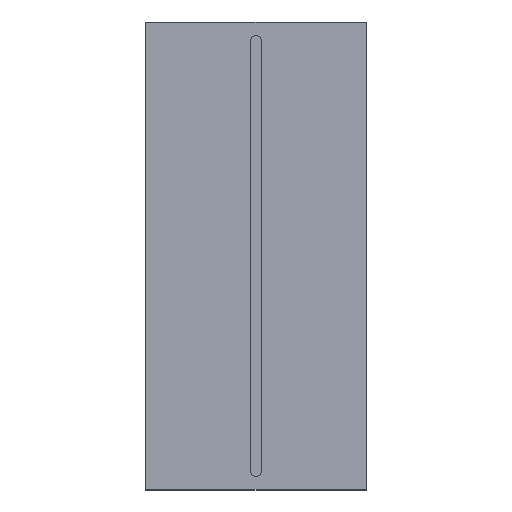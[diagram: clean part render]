
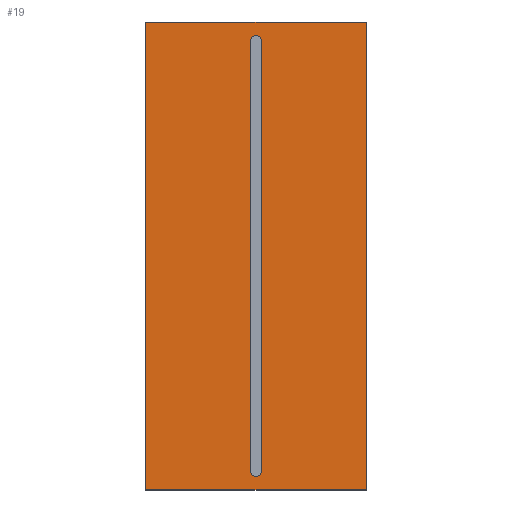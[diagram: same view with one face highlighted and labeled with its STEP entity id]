
A CAD part, top view. The second image highlights one B-rep face of the part: STEP entity #19.
In plain terms, the highlighted planar face has unit normal (0, 0, 1).
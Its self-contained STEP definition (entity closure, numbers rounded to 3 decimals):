
#3 = EDGE_CURVE ( 'NONE', #100, #50, #233, .T. ) ;
#4 = AXIS2_PLACEMENT_3D ( 'NONE', #74, #80, #116 ) ;
#19 = ADVANCED_FACE ( 'NONE', ( #348, #206 ), #52, .F. ) ;
#23 = AXIS2_PLACEMENT_3D ( 'NONE', #110, #105, #104 ) ;
#26 = AXIS2_PLACEMENT_3D ( 'NONE', #195, #185, #182 ) ;
#28 = AXIS2_PLACEMENT_3D ( 'NONE', #83, #56, #54 ) ;
#41 = DIRECTION ( 'NONE',  ( 0., 1., 0. ) ) ;
#44 = CARTESIAN_POINT ( 'NONE',  ( 5., 17., 4. ) ) ;
#45 = DIRECTION ( 'NONE',  ( 1., 0., 0. ) ) ;
#50 = VERTEX_POINT ( 'NONE', #174 ) ;
#52 = PLANE ( 'NONE',  #4 ) ;
#54 = DIRECTION ( 'NONE',  ( 0., -1., 0. ) ) ;
#56 = DIRECTION ( 'NONE',  ( 0., 0., 1. ) ) ;
#58 = CARTESIAN_POINT ( 'NONE',  ( -98.5, 0., 4. ) ) ;
#65 = VERTEX_POINT ( 'NONE', #160 ) ;
#68 = VERTEX_POINT ( 'NONE', #179 ) ;
#69 = CARTESIAN_POINT ( 'NONE',  ( -98.5, 0., 4. ) ) ;
#71 = VERTEX_POINT ( 'NONE', #156 ) ;
#74 = CARTESIAN_POINT ( 'NONE',  ( 98.5, 419., 4. ) ) ;
#75 = VERTEX_POINT ( 'NONE', #165 ) ;
#80 = DIRECTION ( 'NONE',  ( 0., 0., -1. ) ) ;
#83 = CARTESIAN_POINT ( 'NONE',  ( 0., 402., 4. ) ) ;
#92 = VERTEX_POINT ( 'NONE', #148 ) ;
#93 = VERTEX_POINT ( 'NONE', #143 ) ;
#94 = VERTEX_POINT ( 'NONE', #141 ) ;
#97 = DIRECTION ( 'NONE',  ( 0., 1., 0. ) ) ;
#99 = CARTESIAN_POINT ( 'NONE',  ( 98.5, 0., 4. ) ) ;
#100 = VERTEX_POINT ( 'NONE', #137 ) ;
#101 = DIRECTION ( 'NONE',  ( -1., 0., 0. ) ) ;
#103 = CARTESIAN_POINT ( 'NONE',  ( -98.5, 419., 4. ) ) ;
#104 = DIRECTION ( 'NONE',  ( 0., -1., 0. ) ) ;
#105 = DIRECTION ( 'NONE',  ( 0., 0., 1. ) ) ;
#109 = DIRECTION ( 'NONE',  ( 0., -1., 0. ) ) ;
#110 = CARTESIAN_POINT ( 'NONE',  ( 0., 17., 4. ) ) ;
#116 = DIRECTION ( 'NONE',  ( 0., 1., 0. ) ) ;
#125 = CARTESIAN_POINT ( 'NONE',  ( -5., 17., 4. ) ) ;
#137 = CARTESIAN_POINT ( 'NONE',  ( -98.5, 419., 4. ) ) ;
#141 = CARTESIAN_POINT ( 'NONE',  ( -5., 17., 4. ) ) ;
#143 = CARTESIAN_POINT ( 'NONE',  ( 5., 402., 4. ) ) ;
#148 = CARTESIAN_POINT ( 'NONE',  ( 98.5, 419., 4. ) ) ;
#156 = CARTESIAN_POINT ( 'NONE',  ( -5., 402., 4. ) ) ;
#160 = CARTESIAN_POINT ( 'NONE',  ( 5., 17., 4. ) ) ;
#162 = DIRECTION ( 'NONE',  ( 0., -1., 0. ) ) ;
#165 = CARTESIAN_POINT ( 'NONE',  ( 0., 407., 4. ) ) ;
#174 = CARTESIAN_POINT ( 'NONE',  ( -98.5, 0., 4. ) ) ;
#179 = CARTESIAN_POINT ( 'NONE',  ( 98.5, 0., 4. ) ) ;
#182 = DIRECTION ( 'NONE',  ( 0., -1., 0. ) ) ;
#185 = DIRECTION ( 'NONE',  ( 0., 0., 1. ) ) ;
#195 = CARTESIAN_POINT ( 'NONE',  ( 0., 402., 4. ) ) ;
#205 = ORIENTED_EDGE ( 'NONE', *, *, #355, .F. ) ;
#206 = FACE_BOUND ( 'NONE', #234, .T. ) ;
#207 = ORIENTED_EDGE ( 'NONE', *, *, #375, .F. ) ;
#213 = VECTOR ( 'NONE', #162, 1000. ) ;
#219 = ORIENTED_EDGE ( 'NONE', *, *, #357, .T. ) ;
#222 = LINE ( 'NONE', #103, #273 ) ;
#226 = ORIENTED_EDGE ( 'NONE', *, *, #3, .T. ) ;
#233 = LINE ( 'NONE', #58, #213 ) ;
#234 = EDGE_LOOP ( 'NONE', ( #205, #345, #279, #246, #207 ) ) ;
#246 = ORIENTED_EDGE ( 'NONE', *, *, #380, .F. ) ;
#260 = VECTOR ( 'NONE', #97, 1000. ) ;
#267 = VECTOR ( 'NONE', #45, 1000. ) ;
#273 = VECTOR ( 'NONE', #101, 1000. ) ;
#274 = CIRCLE ( 'NONE', #26, 5. ) ;
#277 = CIRCLE ( 'NONE', #28, 5. ) ;
#279 = ORIENTED_EDGE ( 'NONE', *, *, #373, .F. ) ;
#297 = LINE ( 'NONE', #44, #338 ) ;
#313 = ORIENTED_EDGE ( 'NONE', *, *, #374, .T. ) ;
#324 = LINE ( 'NONE', #125, #336 ) ;
#333 = ORIENTED_EDGE ( 'NONE', *, *, #356, .T. ) ;
#336 = VECTOR ( 'NONE', #109, 1000. ) ;
#337 = EDGE_LOOP ( 'NONE', ( #219, #333, #226, #313 ) ) ;
#338 = VECTOR ( 'NONE', #41, 1000. ) ;
#340 = LINE ( 'NONE', #99, #260 ) ;
#343 = CIRCLE ( 'NONE', #23, 5. ) ;
#344 = LINE ( 'NONE', #69, #267 ) ;
#345 = ORIENTED_EDGE ( 'NONE', *, *, #354, .F. ) ;
#348 = FACE_OUTER_BOUND ( 'NONE', #337, .T. ) ;
#354 = EDGE_CURVE ( 'NONE', #71, #94, #324, .T. ) ;
#355 = EDGE_CURVE ( 'NONE', #94, #65, #343, .T. ) ;
#356 = EDGE_CURVE ( 'NONE', #92, #100, #222, .T. ) ;
#357 = EDGE_CURVE ( 'NONE', #68, #92, #340, .T. ) ;
#373 = EDGE_CURVE ( 'NONE', #75, #71, #277, .T. ) ;
#374 = EDGE_CURVE ( 'NONE', #50, #68, #344, .T. ) ;
#375 = EDGE_CURVE ( 'NONE', #65, #93, #297, .T. ) ;
#380 = EDGE_CURVE ( 'NONE', #93, #75, #274, .T. ) ;
